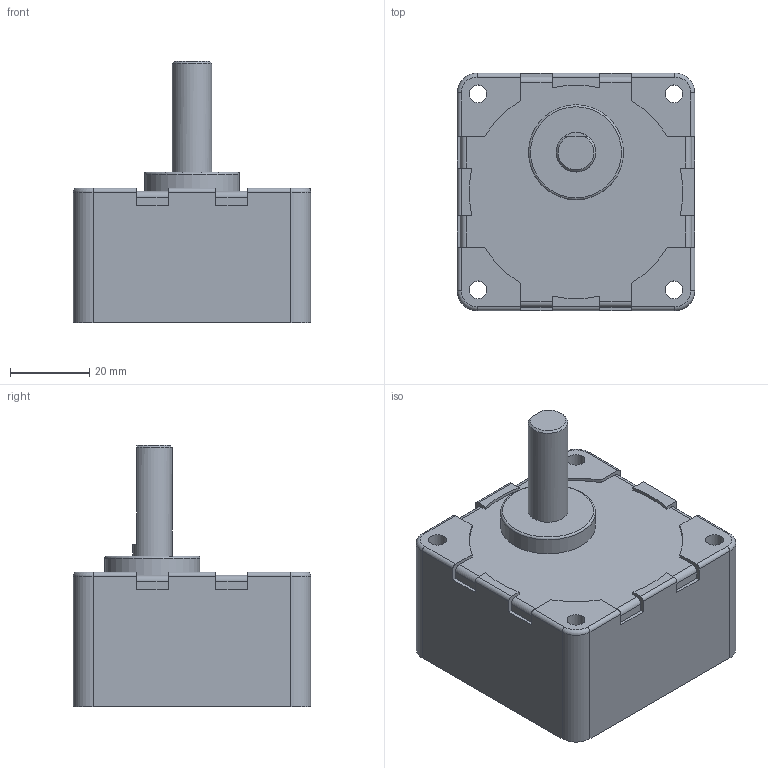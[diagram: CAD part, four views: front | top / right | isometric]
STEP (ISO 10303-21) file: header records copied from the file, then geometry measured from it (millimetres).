
FILE_DESCRIPTION(/* description */ (''),/* implementation_level */ '2;1');
FILE_NAME(/* name */ 'E:\도면작업\2016\0704) 미주향 SG 도면\3D GEAR HEAD\SG6DA5~25.stp',/* time_stamp */ '2016-07-22T13:59:59+09:00',/* author */ ('jy-jung'),/* organization */ (''),/* preprocessor_version */ 'ST-DEVELOPER v15.6',/* originating_system */ 'Autodesk Inventor 2015',/* authorisation */ '');
FILE_SCHEMA (('AUTOMOTIVE_DESIGN { 1 0 10303 214 3 1 1 }'));
Length unit declared in the file: millimetre
Products named in the file (1): SG6DA5~25
Bounding box: 60 x 60 x 66 mm (x, y, z)
Volume: 115719.3 mm3; surface area: 18658.8 mm2
Topology: 1 solids, 1 shells, 99 faces, 268 edges, 175 vertices
Faces by surface type: plane 52, cylinder 39, torus 5, cone 3
Full cylindrical faces by diameter (mm): 4.5 x4, 5.7 x1, 10 x1, 24 x1, 54 x1
Entity records: 3095 total; most frequent: DIRECTION 541, CARTESIAN_POINT 534, ORIENTED_EDGE 512, EDGE_CURVE 256, AXIS2_PLACEMENT_3D 187, VERTEX_POINT 174, LINE 167, VECTOR 167
